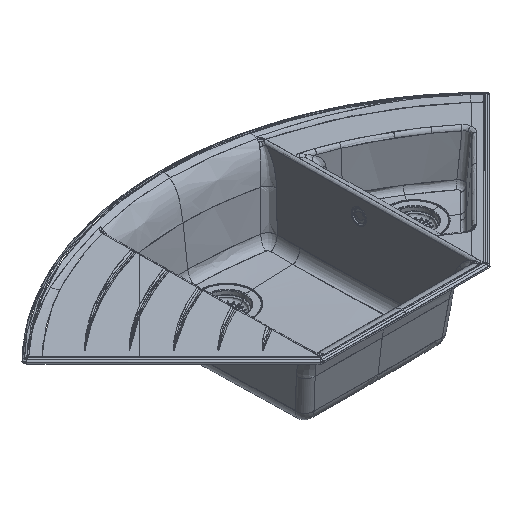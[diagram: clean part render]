
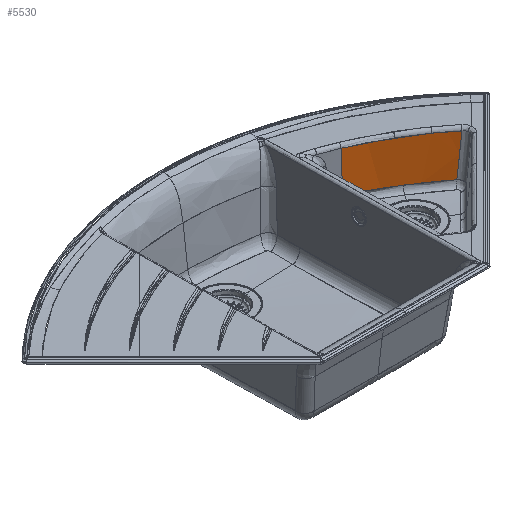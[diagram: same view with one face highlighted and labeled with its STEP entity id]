
A CAD part, isometric view. The second image highlights one B-rep face of the part: STEP entity #5530.
In plain terms, the highlighted free-form (B-spline) face has degree [1, 2] with [2, 3] control points.
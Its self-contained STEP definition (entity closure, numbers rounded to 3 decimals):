
#5530=ADVANCED_FACE('',(#6331),#20365,.T.);
#6331=FACE_OUTER_BOUND('',#7300,.T.);
#7300=EDGE_LOOP('',(#10365));
#10365=ORIENTED_EDGE('',*,*,#13250,.T.);
#13250=EDGE_CURVE('',#18594,#18594,#16250,.T.);
#16250=B_SPLINE_CURVE_WITH_KNOTS('',3,(#104021,#104022,#104023,#104024,
#104025,#104026,#104027,#104028,#104029,#104030,#104031,#104032,#104033,
#104034,#104035,#104036,#104037,#104038,#104039,#104040,#104041,#104042,
#104043,#104044,#104045,#104046,#104047,#104048,#104049,#104050,#104051,
#104052,#104053,#104054),.UNSPECIFIED.,.T.,.F.,(4,3,1,3,3,1,1,1,1,1,1,1,
3,1,1,1,3,3,1,4),(0.,1.,1.5,2.,3.,3.085,3.199,3.299,
3.387,3.54,3.655,3.828,4.,4.25,
4.437,4.719,5.,6.,6.5,7.),.UNSPECIFIED.);
#18594=VERTEX_POINT('',#104020);
#20365=(
BOUNDED_SURFACE()
B_SPLINE_SURFACE(1,2,((#104014,#104015,#104016),(#104017,#104018,#104019)),
 .UNSPECIFIED.,.F.,.F.,.F.)
B_SPLINE_SURFACE_WITH_KNOTS((2,2),(3,3),(0.,1.),(-0.314,0.006),
 .UNSPECIFIED.)
GEOMETRIC_REPRESENTATION_ITEM()
RATIONAL_B_SPLINE_SURFACE(((1.,0.987,1.),(1.,0.987,
1.)))
REPRESENTATION_ITEM('')
SURFACE()
);
#104014=CARTESIAN_POINT('',(344.118,-14.944,-102.924));
#104015=CARTESIAN_POINT('',(264.479,55.222,-102.929));
#104016=CARTESIAN_POINT('',(166.822,96.8,-102.924));
#104017=CARTESIAN_POINT('',(349.737,-8.56,-5.713));
#104018=CARTESIAN_POINT('',(269.072,62.51,-5.718));
#104019=CARTESIAN_POINT('',(170.157,104.623,-5.713));
#104020=CARTESIAN_POINT('',(307.873,25.135,-8.314));
#104021=CARTESIAN_POINT('',(307.873,25.135,-8.314));
#104022=CARTESIAN_POINT('',(291.136,37.605,-8.621));
#104023=CARTESIAN_POINT('',(273.812,49.288,-8.926));
#104024=CARTESIAN_POINT('',(255.979,60.133,-9.229));
#104025=CARTESIAN_POINT('',(242.79,68.155,-9.453));
#104026=CARTESIAN_POINT('',(215.852,83.281,-9.897));
#104027=CARTESIAN_POINT('',(187.93,96.5,-10.333));
#104028=CARTESIAN_POINT('',(173.756,102.618,-10.548));
#104029=CARTESIAN_POINT('',(172.726,100.238,-40.191));
#104030=CARTESIAN_POINT('',(171.695,97.858,-69.834));
#104031=CARTESIAN_POINT('',(170.665,95.478,-99.477));
#104032=CARTESIAN_POINT('',(173.373,94.298,-99.551));
#104033=CARTESIAN_POINT('',(179.715,91.485,-99.721));
#104034=CARTESIAN_POINT('',(189.174,87.11,-99.964));
#104035=CARTESIAN_POINT('',(198.644,82.534,-100.192));
#104036=CARTESIAN_POINT('',(209.256,77.213,-100.43));
#104037=CARTESIAN_POINT('',(220.224,71.451,-100.646));
#104038=CARTESIAN_POINT('',(233.655,64.031,-100.861));
#104039=CARTESIAN_POINT('',(247.495,55.976,-101.016));
#104040=CARTESIAN_POINT('',(257.71,49.657,-101.058));
#104041=CARTESIAN_POINT('',(262.775,46.43,-101.057));
#104042=CARTESIAN_POINT('',(269.038,42.439,-101.059));
#104043=CARTESIAN_POINT('',(279.884,35.273,-101.005));
#104044=CARTESIAN_POINT('',(297.349,22.99,-100.777));
#104045=CARTESIAN_POINT('',(315.166,9.611,-100.406));
#104046=CARTESIAN_POINT('',(328.141,-0.918,-100.043));
#104047=CARTESIAN_POINT('',(334.526,-6.303,-99.849));
#104048=CARTESIAN_POINT('',(338.547,-6.182,-69.096));
#104049=CARTESIAN_POINT('',(342.553,-6.076,-38.34));
#104050=CARTESIAN_POINT('',(346.545,-5.983,-7.583));
#104051=CARTESIAN_POINT('',(340.296,-0.559,-7.705));
#104052=CARTESIAN_POINT('',(327.596,10.056,-7.949));
#104053=CARTESIAN_POINT('',(314.508,20.191,-8.193));
#104054=CARTESIAN_POINT('',(307.873,25.135,-8.314));
